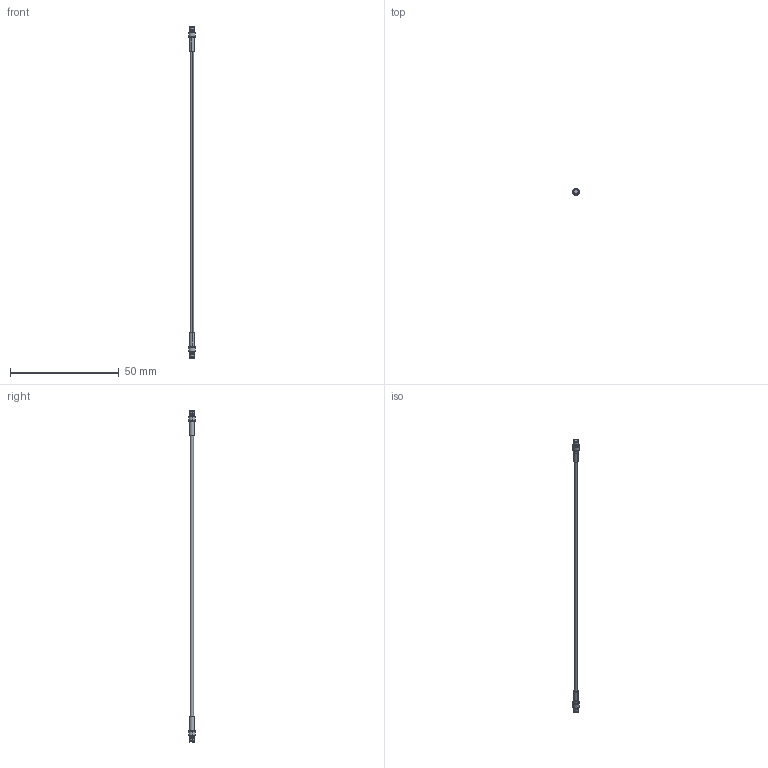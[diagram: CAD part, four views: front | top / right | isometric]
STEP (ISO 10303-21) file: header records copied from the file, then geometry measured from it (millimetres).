
FILE_DESCRIPTION (( 'STEP AP214' ), '1' );
FILE_NAME ('7032-6351.STEP', '2015-11-23T16:17:14', ( '' ), ( '' ), 'SwSTEP 2.0', 'SolidWorks 2015', '' );
FILE_SCHEMA (( 'AUTOMOTIVE_DESIGN' ));
Length unit declared in the file: inch
Products named in the file (1): 7032-6351
Bounding box: 3.15 x 3.15 x 152.4 mm (x, y, z)
Volume: 301 mm3; surface area: 906.5 mm2
Topology: 1 solids, 1 shells, 76 faces, 150 edges, 90 vertices
Faces by surface type: cylinder 40, plane 16, torus 12, cone 8
Entity records: 2952 total; most frequent: DIRECTION 406, CARTESIAN_POINT 317, ORIENTED_EDGE 300, AXIS2_PLACEMENT_3D 179, EDGE_CURVE 150, CIRCLE 102, VERTEX_POINT 90, EDGE_LOOP 90
